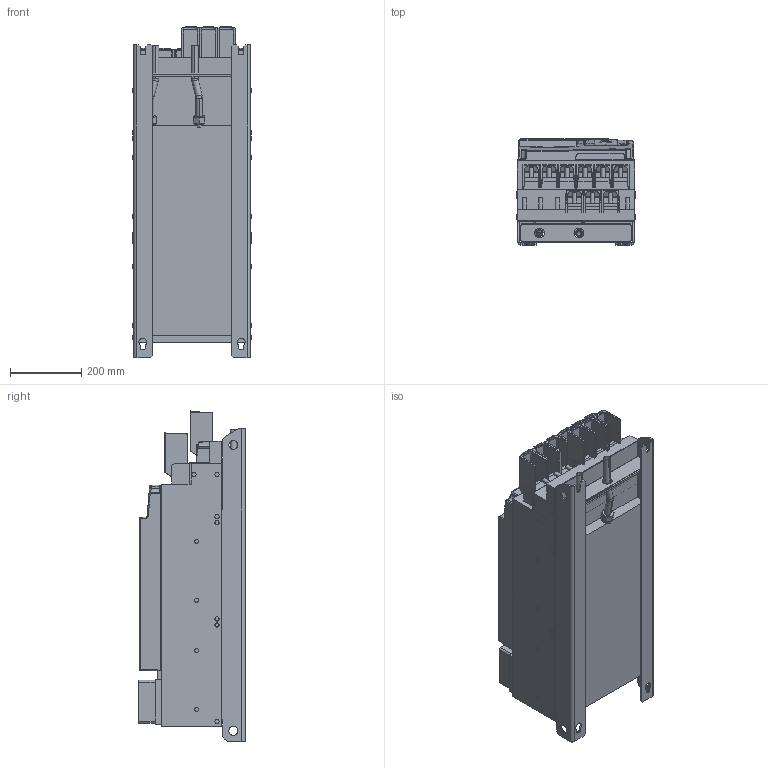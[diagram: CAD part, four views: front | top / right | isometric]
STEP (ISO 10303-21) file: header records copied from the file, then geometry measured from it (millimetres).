
FILE_DESCRIPTION (( 'STEP AP214' ), '1' );
FILE_NAME ('Basisgerät TK0 (Kundenmodell + BW).STEP', '2024-02-06T17:09:51', ( '' ), ( '' ), 'SwSTEP 2.0', 'SolidWorks 2022', '' );
FILE_SCHEMA (( 'AUTOMOTIVE_DESIGN' ));
Length unit declared in the file: millimetre
Products named in the file (14): Kundenmodell^10040552_000; 10038044_000_Kundemodell; Kundenmodell^10059764_000; Kundenmodell^10035736_000; 10035736_000_Kundenmodell; Basisgerät TK0 (Kundenmodell + BW); 10040552_000_Kundenmodell; 10075248_000_ohne BW (Kundenmodell); 10059764_000_Blindabdeckung (Kundenmodell); Kundenmodell^10038044_000; Kundenmodell^10047771_000; Kundenmodell ohne BW^10075248_000; 10047771_000_Kundenmodell; 10076560_000_F6-8 Leistungsteil TK0
Assembly tree (13 placements, depth 4):
  Basisgerät TK0 (Kundenmodell + BW)
    10076560_000_F6-8 Leistungsteil TK0
      10075248_000_ohne BW (Kundenmodell)
        Kundenmodell ohne BW^10075248_000
      10038044_000_Kundemodell
        Kundenmodell^10038044_000
    10040552_000_Kundenmodell
      10047771_000_Kundenmodell
        Kundenmodell^10047771_000
      Kundenmodell^10040552_000
    10035736_000_Kundenmodell
      10059764_000_Blindabdeckung (Kundenmodell)
        Kundenmodell^10059764_000
      Kundenmodell^10035736_000
Bounding box: 335.5 x 296.9 x 926.37 mm (x, y, z)
Volume: 62776906.1 mm3; surface area: 3022700.3 mm2
Topology: 6 solids, 32 shells, 2899 faces, 7355 edges, 4552 vertices
Faces by surface type: plane 1485, cylinder 821, bspline 235, cone 157, sphere 154, torus 47
Entity records: 93496 total; most frequent: CARTESIAN_POINT 25100, ORIENTED_EDGE 14488, DIRECTION 13524, EDGE_CURVE 7244, VERTEX_POINT 4549, LINE 4522, VECTOR 4522, AXIS2_PLACEMENT_3D 4501
